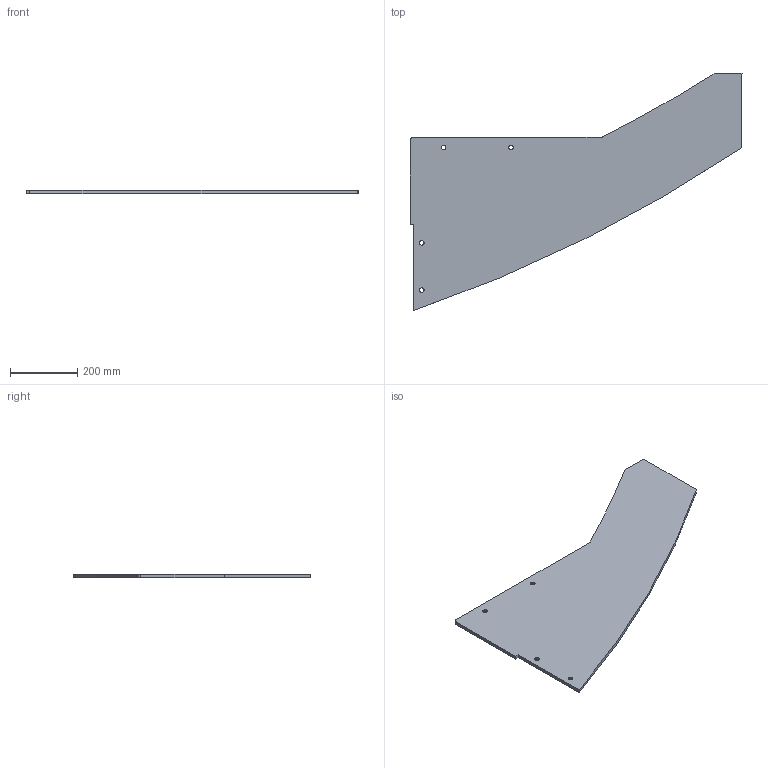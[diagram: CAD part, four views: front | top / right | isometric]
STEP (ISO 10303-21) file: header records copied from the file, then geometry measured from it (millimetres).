
FILE_DESCRIPTION(/* description */ (''),/* implementation_level */ '2;1');
FILE_NAME(/* name */ 'Pos118-Plaatwerk D= 10-S235JRG2-3st',/* time_stamp */ '2024-08-06T13:37:44+02:00',/* author */ (''),/* organization */ (''),/* preprocessor_version */ 'ST-DEVELOPER v16.5',/* originating_system */ 'HiCAD 2024 2901.2 Build 361',/* authorisation */ '');
FILE_SCHEMA (('AUTOMOTIVE_DESIGN { 1 0 10303 214 1 1 1 1 }'));
Length unit declared in the file: millimetre
Products named in the file (1): Pos118-Plaatwerk D= 10-S235JRG2-3st
Bounding box: 985 x 704.23 x 10 mm (x, y, z)
Volume: 3389977.5 mm3; surface area: 708997.3 mm2
Topology: 1 solids, 1 shells, 20 faces, 72 edges, 76 vertices
Faces by surface type: cylinder 8, plane 8, cone 4
Full cylindrical faces by diameter (mm): 13.5 x4
Entity records: 1275 total; most frequent: CARTESIAN_POINT 152, DIRECTION 120, PRESENTATION_STYLE_ASSIGNMENT 103, COLOUR_RGB 86, DRAUGHTING_PRE_DEFINED_CURVE_FONT 84, CURVE_STYLE 84, OVER_RIDING_STYLED_ITEM 84, ORIENTED_EDGE 84
